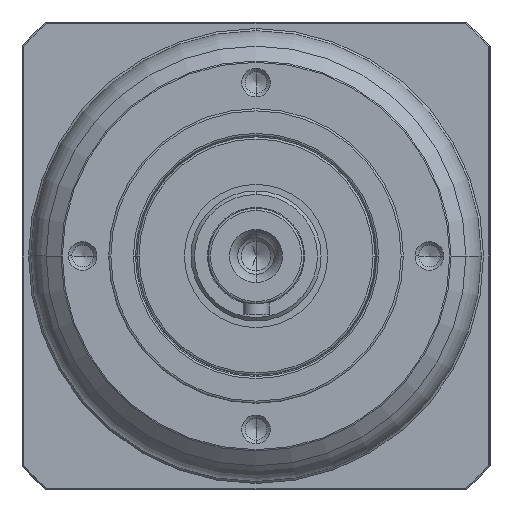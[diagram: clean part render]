
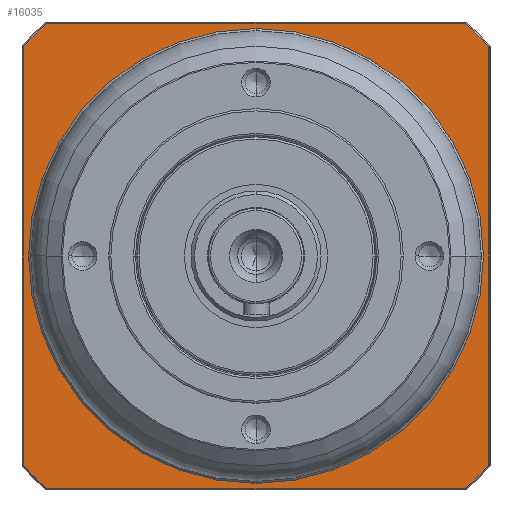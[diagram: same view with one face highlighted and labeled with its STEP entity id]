
A CAD part, left-side view. The second image highlights one B-rep face of the part: STEP entity #16035.
In plain terms, the highlighted planar face has unit normal (-1, 0, 0) as drawn and (0, 0, -1) by its records, which use the part's own axes.
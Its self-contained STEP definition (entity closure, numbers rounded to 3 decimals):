
#14929=CARTESIAN_POINT('',(0.,0.,
2.5));
#14930=DIRECTION('',(0.,0.,-1.));
#14931=DIRECTION('',(0.,-1.,0.));
#14932=AXIS2_PLACEMENT_3D('',#14929,#14930,#14931);
#14934=CARTESIAN_POINT('',(0.,0.,2.5));
#14935=DIRECTION('',(0.,0.,-1.));
#14936=DIRECTION('',(0.,1.,0.));
#14937=AXIS2_PLACEMENT_3D('',#14934,#14935,#14936);
#14939=CARTESIAN_POINT('',(0.,0.,2.5));
#14940=DIRECTION('',(0.,0.,1.));
#14941=DIRECTION('',(-0.744,-0.668,0.));
#14942=AXIS2_PLACEMENT_3D('',#14939,#14940,#14941);
#14944=DIRECTION('',(1.,0.,0.));
#14945=VECTOR('',#14944,96.523);
#14946=CARTESIAN_POINT('',(-48.261,-53.7,
2.5));
#14947=LINE('',#14946,#14945);
#14948=CARTESIAN_POINT('',(0.,0.,2.5));
#14949=DIRECTION('',(0.,0.,1.));
#14950=DIRECTION('',(0.668,-0.744,0.));
#14951=AXIS2_PLACEMENT_3D('',#14948,#14949,#14950);
#14953=DIRECTION('',(0.,1.,0.));
#14954=VECTOR('',#14953,96.523);
#14955=CARTESIAN_POINT('',(53.7,-48.261,
2.5));
#14956=LINE('',#14955,#14954);
#14957=CARTESIAN_POINT('',(0.,0.,2.5));
#14958=DIRECTION('',(0.,0.,1.));
#14959=DIRECTION('',(0.744,0.668,0.));
#14960=AXIS2_PLACEMENT_3D('',#14957,#14958,#14959);
#14962=DIRECTION('',(-1.,0.,0.));
#14963=VECTOR('',#14962,96.523);
#14964=CARTESIAN_POINT('',(48.261,53.7,2.5));
#14965=LINE('',#14964,#14963);
#14966=CARTESIAN_POINT('',(0.,0.,2.5));
#14967=DIRECTION('',(0.,0.,1.));
#14968=DIRECTION('',(-0.668,0.744,0.));
#14969=AXIS2_PLACEMENT_3D('',#14966,#14967,#14968);
#14971=DIRECTION('',(0.,-1.,0.));
#14972=VECTOR('',#14971,96.523);
#14973=CARTESIAN_POINT('',(-53.7,48.261,
2.5));
#14974=LINE('',#14973,#14972);
#15692=CARTESIAN_POINT('',(0.,-52.5,2.5));
#15693=CARTESIAN_POINT('',(0.,52.5,
2.5));
#15694=VERTEX_POINT('',#15692);
#15695=VERTEX_POINT('',#15693);
#15764=CARTESIAN_POINT('',(-53.7,-48.261,2.5));
#15765=CARTESIAN_POINT('',(-48.261,-53.7,2.5));
#15766=VERTEX_POINT('',#15764);
#15767=VERTEX_POINT('',#15765);
#15772=CARTESIAN_POINT('',(48.261,-53.7,
2.5));
#15773=VERTEX_POINT('',#15772);
#15776=CARTESIAN_POINT('',(53.7,-48.261,2.5));
#15777=VERTEX_POINT('',#15776);
#15780=CARTESIAN_POINT('',(53.7,48.261,2.5));
#15781=VERTEX_POINT('',#15780);
#15784=CARTESIAN_POINT('',(48.261,53.7,2.5));
#15785=VERTEX_POINT('',#15784);
#15788=CARTESIAN_POINT('',(-48.261,53.7,
2.5));
#15789=VERTEX_POINT('',#15788);
#15794=CARTESIAN_POINT('',(-53.7,48.261,2.5));
#15795=VERTEX_POINT('',#15794);
#16007=CARTESIAN_POINT('',(0.,0.,2.5));
#16008=DIRECTION('',(0.,0.,1.));
#16009=DIRECTION('',(0.,1.,0.));
#16010=AXIS2_PLACEMENT_3D('',#16007,#16008,#16009);
#16011=PLANE('',#16010);
#16013=ORIENTED_EDGE('',*,*,#16012,.T.);
#16015=ORIENTED_EDGE('',*,*,#16014,.T.);
#16017=ORIENTED_EDGE('',*,*,#16016,.T.);
#16019=ORIENTED_EDGE('',*,*,#16018,.T.);
#16021=ORIENTED_EDGE('',*,*,#16020,.T.);
#16023=ORIENTED_EDGE('',*,*,#16022,.T.);
#16025=ORIENTED_EDGE('',*,*,#16024,.T.);
#16027=ORIENTED_EDGE('',*,*,#16026,.T.);
#16028=EDGE_LOOP('',(#16013,#16015,#16017,#16019,#16021,#16023,#16025,#16027));
#16029=FACE_OUTER_BOUND('',#16028,.F.);
#16031=ORIENTED_EDGE('',*,*,#16030,.T.);
#16032=ORIENTED_EDGE('',*,*,#15997,.T.);
#16033=EDGE_LOOP('',(#16031,#16032));
#16034=FACE_BOUND('',#16033,.F.);
#16035=ADVANCED_FACE('',(#16029,#16034),#16011,.F.);
#14933=CIRCLE('',#14932,52.5);
#14938=CIRCLE('',#14937,52.5);
#14943=CIRCLE('',#14942,72.2);
#14952=CIRCLE('',#14951,72.2);
#14961=CIRCLE('',#14960,72.2);
#14970=CIRCLE('',#14969,72.2);
#15997=EDGE_CURVE('',#15695,#15694,#14938,.T.);
#16012=EDGE_CURVE('',#15766,#15767,#14943,.T.);
#16014=EDGE_CURVE('',#15767,#15773,#14947,.T.);
#16016=EDGE_CURVE('',#15773,#15777,#14952,.T.);
#16018=EDGE_CURVE('',#15777,#15781,#14956,.T.);
#16020=EDGE_CURVE('',#15781,#15785,#14961,.T.);
#16022=EDGE_CURVE('',#15785,#15789,#14965,.T.);
#16024=EDGE_CURVE('',#15789,#15795,#14970,.T.);
#16026=EDGE_CURVE('',#15795,#15766,#14974,.T.);
#16030=EDGE_CURVE('',#15694,#15695,#14933,.T.);
